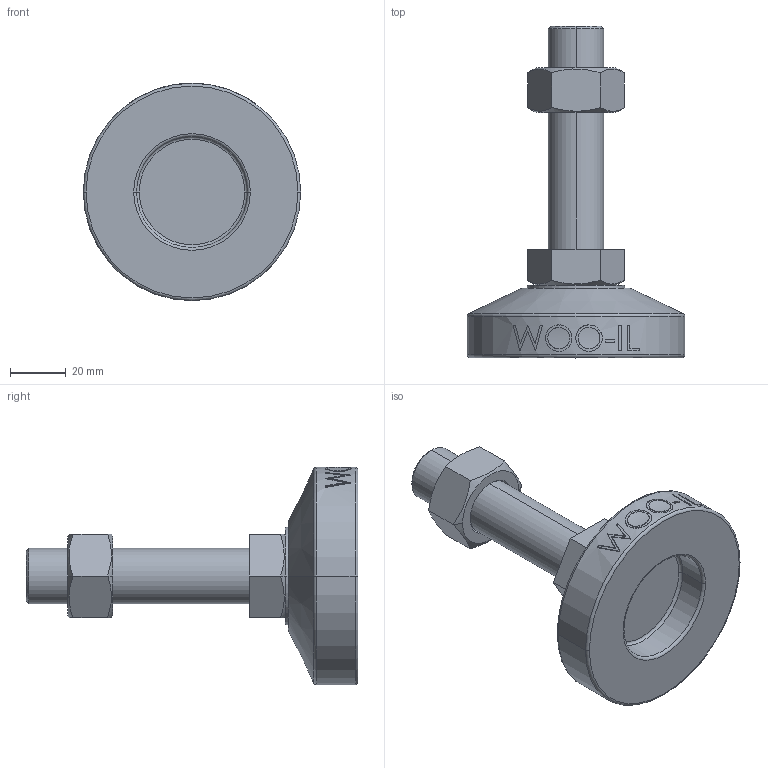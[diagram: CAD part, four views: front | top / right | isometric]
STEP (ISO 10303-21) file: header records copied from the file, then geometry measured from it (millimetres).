
FILE_DESCRIPTION (( 'STEP AP214' ), '1' );
FILE_NAME ('MFZ78-M20-80.step', '2021-01-15T07:09:18', ( '' ), ( '' ), 'SwSTEP 2.0', 'SolidWorks 2019', '' );
FILE_SCHEMA (( 'AUTOMOTIVE_DESIGN' ));
Length unit declared in the file: millimetre
Products named in the file (2): MFZ78-M20-80
Bounding box: 78 x 119 x 78 mm (x, y, z)
Volume: 129564 mm3; surface area: 26361.9 mm2
Topology: 3 solids, 3 shells, 106 faces, 243 edges, 154 vertices
Faces by surface type: plane 48, cylinder 18, bspline 16, cone 14, torus 10
Entity records: 4596 total; most frequent: CARTESIAN_POINT 2253, ORIENTED_EDGE 486, DIRECTION 439, EDGE_CURVE 243, AXIS2_PLACEMENT_3D 170, VERTEX_POINT 154, EDGE_LOOP 119, FACE_OUTER_BOUND 106
